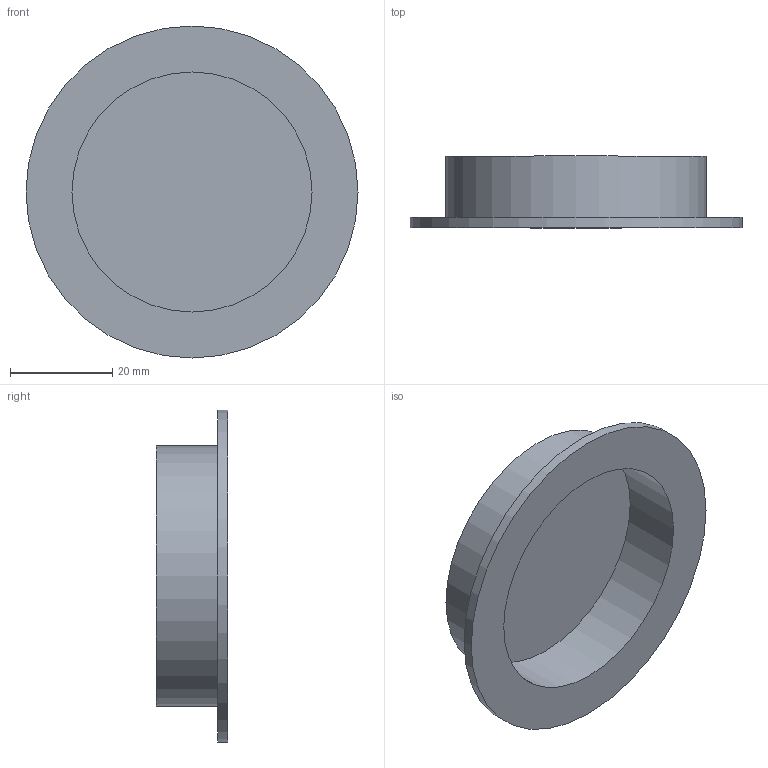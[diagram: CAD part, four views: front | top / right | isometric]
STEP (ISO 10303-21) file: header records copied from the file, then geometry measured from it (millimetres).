
FILE_DESCRIPTION( ( 'STEP AP214' ), '1' );
FILE_NAME( 'D:/Yug/2021/Prodecor/QC/9070138.stp', '2021-11-30T14:43:13', ( '' ), ( '' ), ' ', 'PARTsolutions', ' ' );
FILE_SCHEMA( ( 'AUTOMOTIVE_DESIGN { 1 0 10303 214 1 1 1 1 }' ) );
Length unit declared in the file: millimetre
Products named in the file (1): _9070138
Bounding box: 65 x 14 x 65 mm (x, y, z)
Volume: 10331.1 mm3; surface area: 10739.5 mm2
Topology: 1 solids, 1 shells, 7 faces, 9 edges, 6 vertices
Faces by surface type: plane 4, cylinder 3
Full cylindrical faces by diameter (mm): 47 x1, 51 x1, 65 x1
Entity records: 206 total; most frequent: DIRECTION 28, CARTESIAN_POINT 20, AXIS2_PLACEMENT_3D 14, EDGE_LOOP 12, ORIENTED_EDGE 12, FACE_OUTER_BOUND 10, STYLED_ITEM 7, PRESENTATION_STYLE_ASSIGNMENT 7
